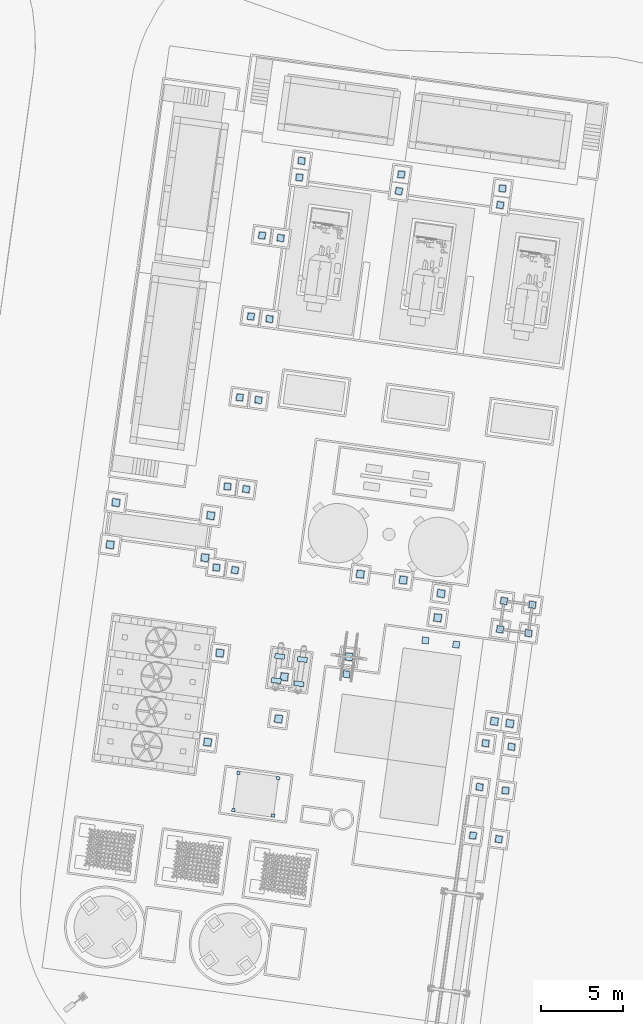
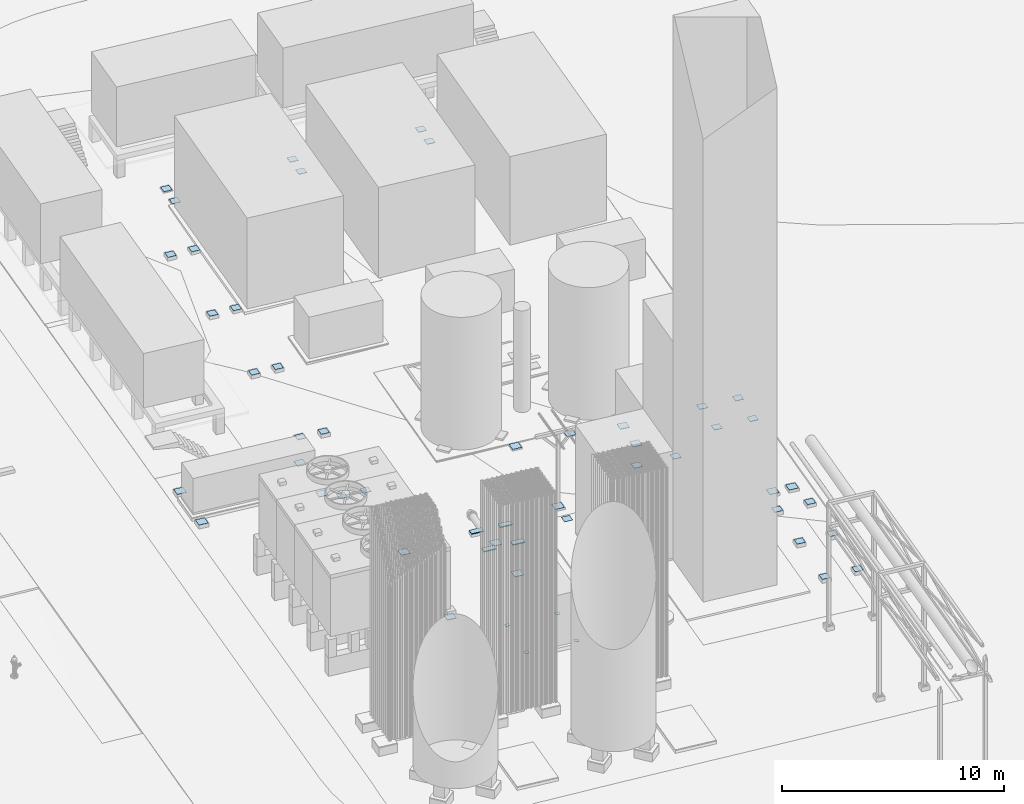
# Not in any storey, part 19 of 75: 48 plates, 4 slabs.
"""IFC4 model written with IfcOpenShell, lengths in metres."""

from ifc_helpers import new_model, si_unit, direction, origin, origin_with_axes, place, context, subcontext, project, spatial, triangles, material, element, save


model = new_model("IFC4")

# Units and contexts
model_context = context("Model", 3, precision=1e-05, world=origin_with_axes(), true_north=direction((0.0, 1.0)))
body_context = subcontext(model_context, "Body", "Model", "MODEL_VIEW")
ifc_project = project(units=[si_unit("AREAUNIT", "SQUARE_METRE"), si_unit("VOLUMEUNIT", "CUBIC_METRE"), si_unit("LENGTHUNIT", "METRE")], contexts=[model_context])

# Site
site_placement = place(None, origin_with_axes())
site = spatial("IfcSite", under=ifc_project, at=site_placement, Name="Parcela industrial Jinhong")

# Plates
plate_1_placement = place(None, origin())
element("IfcPlate", 1, at=plate_1_placement, inside=site, Name="Cimentación de las cajas frías · placa embebida MJ-2 2423", ObjectType="Cimentación industrial", PredefinedType="USERDEFINED", context=body_context, shape_type="Tessellation", body=[
    triangles([(50.94373, 48.196118, 1.184), (51.340003, 48.141637, 1.184), (51.285521, 47.745365, 1.184), (50.889249, 47.799846, 1.184), (50.94373, 48.196118, 1.2), (51.340003, 48.141637, 1.2), (51.285521, 47.745365, 1.2), (50.889249, 47.799846, 1.2)], [[1, 2, 3], [3, 4, 1], [7, 6, 5], [5, 8, 7], [5, 6, 1], [1, 6, 2], [6, 7, 2], [2, 7, 3], [8, 5, 4], [4, 5, 1], [7, 8, 3], [3, 8, 4]], closed=True),
])
plate_2_placement = place(None, origin())
element("IfcPlate", 2, at=plate_2_placement, inside=site, Name="Cimentación de las cajas frías · placa embebida MJ-2 2424", ObjectType="Cimentación industrial", PredefinedType="USERDEFINED", context=body_context, shape_type="Tessellation", body=[
    triangles([(55.770907, 50.267946, 1.184), (56.167179, 50.213464, 1.184), (56.112698, 49.817192, 1.184), (55.716425, 49.871674, 1.184), (55.770907, 50.267946, 1.2), (56.167179, 50.213464, 1.2), (56.112698, 49.817192, 1.2), (55.716425, 49.871674, 1.2)], [[1, 2, 3], [3, 4, 1], [7, 6, 5], [5, 8, 7], [5, 6, 1], [1, 6, 2], [6, 7, 2], [2, 7, 3], [8, 5, 4], [4, 5, 1], [7, 8, 3], [3, 8, 4]], closed=True),
])
plate_3_placement = place(None, origin())
element("IfcPlate", 3, at=plate_3_placement, inside=site, Name="Cimentación de las cajas frías · placa embebida MJ-2 2427", ObjectType="Cimentación industrial", PredefinedType="USERDEFINED", context=body_context, shape_type="Tessellation", body=[
    triangles([(57.6532, 50.009158, 1.184), (58.049473, 49.954677, 1.184), (57.994991, 49.558405, 1.184), (57.598719, 49.612886, 1.184), (57.6532, 50.009158, 1.2), (58.049473, 49.954677, 1.2), (57.994991, 49.558405, 1.2), (57.598719, 49.612886, 1.2)], [[1, 2, 3], [3, 4, 1], [7, 6, 5], [5, 8, 7], [5, 6, 1], [1, 6, 2], [6, 7, 2], [2, 7, 3], [8, 5, 4], [4, 5, 1], [7, 8, 3], [3, 8, 4]], closed=True),
])

# Slabs
ifc_material = material(Name="Mortero HA-35 de alta resistencia sin retracción", Category="Material documentado")
slab_1_placement = place(None, origin())
element("IfcSlab", 4, at=slab_1_placement, inside=site, material=ifc_material, Name="Cimentación del posenfriador WE441-PLAN · mortero DZ6 1", ObjectType="Cimentación industrial", PredefinedType="USERDEFINED", context=body_context, shape_type="Tessellation", body=[
    triangles([(47.348546, 49.175188, 1.25), (47.307685, 48.877984, 1.25), (46.713277, 48.959706, 1.25), (46.754138, 49.25691, 1.25), (47.348546, 49.175188, 1.3), (47.307685, 48.877984, 1.3), (46.713277, 48.959706, 1.3), (46.754138, 49.25691, 1.3)], [[1, 2, 3], [3, 4, 1], [7, 6, 5], [5, 8, 7], [5, 6, 1], [1, 6, 2], [6, 7, 2], [2, 7, 3], [8, 5, 4], [4, 5, 1], [7, 8, 3], [3, 8, 4]], closed=True),
])
slab_2_placement = place(None, origin())
element("IfcSlab", 5, at=slab_2_placement, inside=site, material=ifc_material, Name="Cimentación del posenfriador WE441-PLAN · mortero DZ6 2", ObjectType="Cimentación industrial", PredefinedType="USERDEFINED", context=body_context, shape_type="Tessellation", body=[
    triangles([(47.14424, 47.689167, 1.25), (47.103379, 47.391962, 1.25), (46.508971, 47.473685, 1.25), (46.549832, 47.770889, 1.25), (47.14424, 47.689167, 1.3), (47.103379, 47.391962, 1.3), (46.508971, 47.473685, 1.3), (46.549832, 47.770889, 1.3)], [[1, 2, 3], [3, 4, 1], [7, 6, 5], [5, 8, 7], [5, 6, 1], [1, 6, 2], [6, 7, 2], [2, 7, 3], [8, 5, 4], [4, 5, 1], [7, 8, 3], [3, 8, 4]], closed=True),
])
slab_3_placement = place(None, origin())
element("IfcSlab", 6, at=slab_3_placement, inside=site, material=ifc_material, Name="Cimentación del posenfriador WE442-PLAN · mortero DZ6 1", ObjectType="Cimentación industrial", PredefinedType="USERDEFINED", context=body_context, shape_type="Tessellation", body=[
    triangles([(48.7355, 48.984502, 1.25), (48.694638, 48.687298, 1.25), (48.10023, 48.76902, 1.25), (48.141091, 49.066225, 1.25), (48.7355, 48.984502, 1.3), (48.694638, 48.687298, 1.3), (48.10023, 48.76902, 1.3), (48.141091, 49.066225, 1.3)], [[1, 2, 3], [3, 4, 1], [7, 6, 5], [5, 8, 7], [5, 6, 1], [1, 6, 2], [6, 7, 2], [2, 7, 3], [8, 5, 4], [4, 5, 1], [7, 8, 3], [3, 8, 4]], closed=True),
])
slab_4_placement = place(None, origin())
element("IfcSlab", 7, at=slab_4_placement, inside=site, material=ifc_material, Name="Cimentación del posenfriador WE442-PLAN · mortero DZ6 2", ObjectType="Cimentación industrial", PredefinedType="USERDEFINED", context=body_context, shape_type="Tessellation", body=[
    triangles([(48.531194, 47.498481, 1.25), (48.490332, 47.201277, 1.25), (47.895924, 47.282999, 1.25), (47.936785, 47.580203, 1.25), (48.531194, 47.498481, 1.3), (48.490332, 47.201277, 1.3), (47.895924, 47.282999, 1.3), (47.936785, 47.580203, 1.3)], [[1, 2, 3], [3, 4, 1], [7, 6, 5], [5, 8, 7], [5, 6, 1], [1, 6, 2], [6, 7, 2], [2, 7, 3], [8, 5, 4], [4, 5, 1], [7, 8, 3], [3, 8, 4]], closed=True),
])

# Plates
plate_4_placement = place(None, origin())
element("IfcPlate", 8, at=plate_4_placement, inside=site, Name="Base de la caseta de analizadores · placa embebida MJ3 26DA", ObjectType="Cimentación industrial", PredefinedType="USERDEFINED", context=body_context, shape_type="Tessellation", body=[
    triangles([(44.624866, 42.029301, 1.286), (44.597625, 41.831165, 1.286), (44.399489, 41.858406, 1.286), (44.42673, 42.056542, 1.286), (44.624866, 42.029301, 1.3), (44.597625, 41.831165, 1.3), (44.399489, 41.858406, 1.3), (44.42673, 42.056542, 1.3)], [[1, 2, 3], [3, 4, 1], [7, 6, 5], [5, 8, 7], [5, 6, 1], [1, 6, 2], [6, 7, 2], [2, 7, 3], [8, 5, 4], [4, 5, 1], [7, 8, 3], [3, 8, 4]], closed=True),
])
plate_5_placement = place(None, origin())
element("IfcPlate", 9, at=plate_5_placement, inside=site, Name="Base de la caseta de analizadores · placa embebida MJ3 26DB", ObjectType="Cimentación industrial", PredefinedType="USERDEFINED", context=body_context, shape_type="Tessellation", body=[
    triangles([(44.311597, 39.750735, 1.286), (44.284356, 39.552599, 1.286), (44.08622, 39.57984, 1.286), (44.113461, 39.777976, 1.286), (44.311597, 39.750735, 1.3), (44.284356, 39.552599, 1.3), (44.08622, 39.57984, 1.3), (44.113461, 39.777976, 1.3)], [[1, 2, 3], [3, 4, 1], [7, 6, 5], [5, 8, 7], [5, 6, 1], [1, 6, 2], [6, 7, 2], [2, 7, 3], [8, 5, 4], [4, 5, 1], [7, 8, 3], [3, 8, 4]], closed=True),
])
plate_6_placement = place(None, origin())
element("IfcPlate", 10, at=plate_6_placement, inside=site, Name="Base de la caseta de analizadores · placa embebida MJ3 26DC", ObjectType="Cimentación industrial", PredefinedType="USERDEFINED", context=body_context, shape_type="Tessellation", body=[
    triangles([(47.052034, 41.695601, 1.286), (47.024793, 41.497465, 1.286), (46.826657, 41.524706, 1.286), (46.853898, 41.722842, 1.286), (47.052034, 41.695601, 1.3), (47.024793, 41.497465, 1.3), (46.826657, 41.524706, 1.3), (46.853898, 41.722842, 1.3)], [[1, 2, 3], [3, 4, 1], [7, 6, 5], [5, 8, 7], [5, 6, 1], [1, 6, 2], [6, 7, 2], [2, 7, 3], [8, 5, 4], [4, 5, 1], [7, 8, 3], [3, 8, 4]], closed=True),
])
plate_7_placement = place(None, origin())
element("IfcPlate", 11, at=plate_7_placement, inside=site, Name="Base de la caseta de analizadores · placa embebida MJ3 26DD", ObjectType="Cimentación industrial", PredefinedType="USERDEFINED", context=body_context, shape_type="Tessellation", body=[
    triangles([(46.738765, 39.417035, 1.286), (46.711524, 39.218899, 1.286), (46.513388, 39.24614, 1.286), (46.540629, 39.444276, 1.286), (46.738765, 39.417035, 1.3), (46.711524, 39.218899, 1.3), (46.513388, 39.24614, 1.3), (46.540629, 39.444276, 1.3)], [[1, 2, 3], [3, 4, 1], [7, 6, 5], [5, 8, 7], [5, 6, 1], [1, 6, 2], [6, 7, 2], [2, 7, 3], [8, 5, 4], [4, 5, 1], [7, 8, 3], [3, 8, 4]], closed=True),
])
plate_8_placement = place(None, origin())
element("IfcPlate", 12, at=plate_8_placement, inside=site, Name="Cimentación de soporte de tuberías C01 · placa embebida MJ-1", ObjectType="Cimentación industrial", PredefinedType="USERDEFINED", context=body_context, shape_type="Tessellation", body=[
    triangles([(48.14495, 79.196217, 1.28), (48.199432, 79.592489, 1.28), (48.595704, 79.538008, 1.28), (48.541223, 79.141735, 1.28), (48.14495, 79.196217, 1.3), (48.199432, 79.592489, 1.3), (48.595704, 79.538008, 1.3), (48.541223, 79.141735, 1.3)], [[1, 2, 3], [3, 4, 1], [7, 6, 5], [5, 8, 7], [5, 6, 1], [1, 6, 2], [6, 7, 2], [2, 7, 3], [8, 5, 4], [4, 5, 1], [7, 8, 3], [3, 8, 4]], closed=True),
])
plate_9_placement = place(None, origin())
element("IfcPlate", 13, at=plate_9_placement, inside=site, Name="Cimentación de soporte de tuberías C02 · placa embebida MJ-1", ObjectType="Cimentación industrial", PredefinedType="USERDEFINED", context=body_context, shape_type="Tessellation", body=[
    triangles([(48.005341, 78.180769, 1.28), (48.059823, 78.577041, 1.28), (48.456095, 78.52256, 1.28), (48.401614, 78.126287, 1.28), (48.005341, 78.180769, 1.3), (48.059823, 78.577041, 1.3), (48.456095, 78.52256, 1.3), (48.401614, 78.126287, 1.3)], [[1, 2, 3], [3, 4, 1], [7, 6, 5], [5, 8, 7], [5, 6, 1], [1, 6, 2], [6, 7, 2], [2, 7, 3], [8, 5, 4], [4, 5, 1], [7, 8, 3], [3, 8, 4]], closed=True),
])
plate_10_placement = place(None, origin())
element("IfcPlate", 14, at=plate_10_placement, inside=site, Name="Cimentación de soporte de tuberías C03 · placa embebida MJ-1", ObjectType="Cimentación industrial", PredefinedType="USERDEFINED", context=body_context, shape_type="Tessellation", body=[
    triangles([(54.237637, 78.358563, 1.28), (54.292119, 78.754835, 1.28), (54.688391, 78.700353, 1.28), (54.63391, 78.304081, 1.28), (54.237637, 78.358563, 1.3), (54.292119, 78.754835, 1.3), (54.688391, 78.700353, 1.3), (54.63391, 78.304081, 1.3)], [[1, 2, 3], [3, 4, 1], [7, 6, 5], [5, 8, 7], [5, 6, 1], [1, 6, 2], [6, 7, 2], [2, 7, 3], [8, 5, 4], [4, 5, 1], [7, 8, 3], [3, 8, 4]], closed=True),
])
plate_11_placement = place(None, origin())
element("IfcPlate", 15, at=plate_11_placement, inside=site, Name="Cimentación de soporte de tuberías C04 · placa embebida MJ-1", ObjectType="Cimentación industrial", PredefinedType="USERDEFINED", context=body_context, shape_type="Tessellation", body=[
    triangles([(54.098028, 77.343115, 1.28), (54.15251, 77.739387, 1.28), (54.548782, 77.684906, 1.28), (54.494301, 77.288633, 1.28), (54.098028, 77.343115, 1.3), (54.15251, 77.739387, 1.3), (54.548782, 77.684906, 1.3), (54.494301, 77.288633, 1.3)], [[1, 2, 3], [3, 4, 1], [7, 6, 5], [5, 8, 7], [5, 6, 1], [1, 6, 2], [6, 7, 2], [2, 7, 3], [8, 5, 4], [4, 5, 1], [7, 8, 3], [3, 8, 4]], closed=True),
])
plate_12_placement = place(None, origin())
element("IfcPlate", 16, at=plate_12_placement, inside=site, Name="Cimentación de soporte de tuberías C05 · placa embebida MJ-1", ObjectType="Cimentación industrial", PredefinedType="USERDEFINED", context=body_context, shape_type="Tessellation", body=[
    triangles([(60.429392, 77.507288, 1.28), (60.483874, 77.90356, 1.28), (60.880146, 77.849079, 1.28), (60.825665, 77.452807, 1.28), (60.429392, 77.507288, 1.3), (60.483874, 77.90356, 1.3), (60.880146, 77.849079, 1.3), (60.825665, 77.452807, 1.3)], [[1, 2, 3], [3, 4, 1], [7, 6, 5], [5, 8, 7], [5, 6, 1], [1, 6, 2], [6, 7, 2], [2, 7, 3], [8, 5, 4], [4, 5, 1], [7, 8, 3], [3, 8, 4]], closed=True),
])
plate_13_placement = place(None, origin())
element("IfcPlate", 17, at=plate_13_placement, inside=site, Name="Cimentación de soporte de tuberías C06 · placa embebida MJ-1", ObjectType="Cimentación industrial", PredefinedType="USERDEFINED", context=body_context, shape_type="Tessellation", body=[
    triangles([(60.289783, 76.49184, 1.28), (60.344265, 76.888113, 1.28), (60.740537, 76.833631, 1.28), (60.686056, 76.437359, 1.28), (60.289783, 76.49184, 1.3), (60.344265, 76.888113, 1.3), (60.740537, 76.833631, 1.3), (60.686056, 76.437359, 1.3)], [[1, 2, 3], [3, 4, 1], [7, 6, 5], [5, 8, 7], [5, 6, 1], [1, 6, 2], [6, 7, 2], [2, 7, 3], [8, 5, 4], [4, 5, 1], [7, 8, 3], [3, 8, 4]], closed=True),
])
plate_14_placement = place(None, origin())
element("IfcPlate", 18, at=plate_14_placement, inside=site, Name="Cimentación de soporte de tuberías C07 · placa embebida MJ-1", ObjectType="Cimentación industrial", PredefinedType="USERDEFINED", context=body_context, shape_type="Tessellation", body=[
    triangles([(46.176657, 74.974968, 1.28), (45.725903, 74.633177, 1.28), (45.780384, 75.029449, 1.28), (46.122175, 74.578695, 1.28), (46.176657, 74.974968, 1.3), (45.725903, 74.633177, 1.3), (45.780384, 75.029449, 1.3), (46.122175, 74.578695, 1.3)], [[1, 2, 3], [2, 1, 4], [7, 6, 5], [8, 5, 6], [7, 5, 3], [3, 5, 1], [6, 7, 2], [2, 7, 3], [5, 8, 1], [1, 8, 4], [8, 6, 4], [4, 6, 2]], closed=True),
])
plate_15_placement = place(None, origin())
element("IfcPlate", 19, at=plate_15_placement, inside=site, Name="Cimentación de soporte de tuberías C08 · placa embebida MJ-1", ObjectType="Cimentación industrial", PredefinedType="USERDEFINED", context=body_context, shape_type="Tessellation", body=[
    triangles([(46.865186, 74.476542, 1.28), (46.919667, 74.872815, 1.28), (47.31594, 74.818333, 1.28), (47.261458, 74.422061, 1.28), (46.865186, 74.476542, 1.3), (46.919667, 74.872815, 1.3), (47.31594, 74.818333, 1.3), (47.261458, 74.422061, 1.3)], [[1, 2, 3], [3, 4, 1], [7, 6, 5], [5, 8, 7], [5, 6, 1], [1, 6, 2], [6, 7, 2], [2, 7, 3], [8, 5, 4], [4, 5, 1], [7, 8, 3], [3, 8, 4]], closed=True),
])
plate_16_placement = place(None, origin())
element("IfcPlate", 20, at=plate_16_placement, inside=site, Name="Cimentación de soporte de tuberías C09 · placa embebida MJ-1", ObjectType="Cimentación industrial", PredefinedType="USERDEFINED", context=body_context, shape_type="Tessellation", body=[
    triangles([(45.495637, 70.021563, 1.28), (45.044883, 69.679773, 1.28), (45.099365, 70.076045, 1.28), (45.441155, 69.625291, 1.28), (45.495637, 70.021563, 1.3), (45.044883, 69.679773, 1.3), (45.099365, 70.076045, 1.3), (45.441155, 69.625291, 1.3)], [[1, 2, 3], [2, 1, 4], [7, 6, 5], [8, 5, 6], [7, 5, 3], [3, 5, 1], [6, 7, 2], [2, 7, 3], [5, 8, 1], [1, 8, 4], [8, 6, 4], [4, 6, 2]], closed=True),
])
plate_17_placement = place(None, origin())
element("IfcPlate", 21, at=plate_17_placement, inside=site, Name="Cimentación de soporte de tuberías C10 · placa embebida MJ-1", ObjectType="Cimentación industrial", PredefinedType="USERDEFINED", context=body_context, shape_type="Tessellation", body=[
    triangles([(46.184166, 69.523138, 1.28), (46.238648, 69.91941, 1.28), (46.63492, 69.864929, 1.28), (46.580438, 69.468657, 1.28), (46.184166, 69.523138, 1.3), (46.238648, 69.91941, 1.3), (46.63492, 69.864929, 1.3), (46.580438, 69.468657, 1.3)], [[1, 2, 3], [3, 4, 1], [7, 6, 5], [5, 8, 7], [5, 6, 1], [1, 6, 2], [6, 7, 2], [2, 7, 3], [8, 5, 4], [4, 5, 1], [7, 8, 3], [3, 8, 4]], closed=True),
])
plate_18_placement = place(None, origin())
element("IfcPlate", 22, at=plate_18_placement, inside=site, Name="Cimentación de soporte de tuberías C11 · placa embebida MJ-1", ObjectType="Cimentación industrial", PredefinedType="USERDEFINED", context=body_context, shape_type="Tessellation", body=[
    triangles([(44.814617, 65.068159, 1.28), (44.363863, 64.726369, 1.28), (44.418345, 65.122641, 1.28), (44.760136, 64.671887, 1.28), (44.814617, 65.068159, 1.3), (44.363863, 64.726369, 1.3), (44.418345, 65.122641, 1.3), (44.760136, 64.671887, 1.3)], [[1, 2, 3], [2, 1, 4], [7, 6, 5], [8, 5, 6], [7, 5, 3], [3, 5, 1], [6, 7, 2], [2, 7, 3], [5, 8, 1], [1, 8, 4], [8, 6, 4], [4, 6, 2]], closed=True),
])
plate_19_placement = place(None, origin())
element("IfcPlate", 23, at=plate_19_placement, inside=site, Name="Cimentación de soporte de tuberías C12 · placa embebida MJ-1", ObjectType="Cimentación industrial", PredefinedType="USERDEFINED", context=body_context, shape_type="Tessellation", body=[
    triangles([(45.503146, 64.569734, 1.28), (45.557628, 64.966006, 1.28), (45.9539, 64.911525, 1.28), (45.899419, 64.515252, 1.28), (45.503146, 64.569734, 1.3), (45.557628, 64.966006, 1.3), (45.9539, 64.911525, 1.3), (45.899419, 64.515252, 1.3)], [[1, 2, 3], [3, 4, 1], [7, 6, 5], [5, 8, 7], [5, 6, 1], [1, 6, 2], [6, 7, 2], [2, 7, 3], [8, 5, 4], [4, 5, 1], [7, 8, 3], [3, 8, 4]], closed=True),
])
plate_20_placement = place(None, origin())
element("IfcPlate", 24, at=plate_20_placement, inside=site, Name="Cimentación de soporte de tuberías C13 · placa embebida MJ-1", ObjectType="Cimentación industrial", PredefinedType="USERDEFINED", context=body_context, shape_type="Tessellation", body=[
    triangles([(44.065496, 59.619415, 1.28), (43.614742, 59.277624, 1.28), (43.669223, 59.673896, 1.28), (44.011014, 59.223142, 1.28), (44.065496, 59.619415, 1.3), (43.614742, 59.277624, 1.3), (43.669223, 59.673896, 1.3), (44.011014, 59.223142, 1.3)], [[1, 2, 3], [2, 1, 4], [7, 6, 5], [8, 5, 6], [7, 5, 3], [3, 5, 1], [6, 7, 2], [2, 7, 3], [5, 8, 1], [1, 8, 4], [8, 6, 4], [4, 6, 2]], closed=True),
])
plate_21_placement = place(None, origin())
element("IfcPlate", 25, at=plate_21_placement, inside=site, Name="Cimentación de soporte de tuberías C14 · placa embebida MJ-1", ObjectType="Cimentación industrial", PredefinedType="USERDEFINED", context=body_context, shape_type="Tessellation", body=[
    triangles([(44.754025, 59.12099, 1.28), (44.808506, 59.517262, 1.28), (45.204779, 59.46278, 1.28), (45.150297, 59.066508, 1.28), (44.754025, 59.12099, 1.3), (44.808506, 59.517262, 1.3), (45.204779, 59.46278, 1.3), (45.150297, 59.066508, 1.3)], [[1, 2, 3], [3, 4, 1], [7, 6, 5], [5, 8, 7], [5, 6, 1], [1, 6, 2], [6, 7, 2], [2, 7, 3], [8, 5, 4], [4, 5, 1], [7, 8, 3], [3, 8, 4]], closed=True),
])
plate_22_placement = place(None, origin())
element("IfcPlate", 26, at=plate_22_placement, inside=site, Name="Cimentación de marquesina C15 · placa embebida M1", ObjectType="Cimentación industrial", PredefinedType="USERDEFINED", context=body_context, shape_type="Tessellation", body=[
    triangles([(36.764522, 58.27632, 1.28), (36.825814, 58.722126, 1.28), (37.27162, 58.660834, 1.28), (37.210328, 58.215028, 1.28), (36.764522, 58.27632, 1.3), (36.825814, 58.722126, 1.3), (37.27162, 58.660834, 1.3), (37.210328, 58.215028, 1.3)], [[1, 2, 3], [3, 4, 1], [7, 6, 5], [5, 8, 7], [5, 6, 1], [1, 6, 2], [6, 7, 2], [2, 7, 3], [8, 5, 4], [4, 5, 1], [7, 8, 3], [3, 8, 4]], closed=True),
])
plate_23_placement = place(None, origin())
element("IfcPlate", 27, at=plate_23_placement, inside=site, Name="Cimentación de marquesina C16 · placa embebida M1", ObjectType="Cimentación industrial", PredefinedType="USERDEFINED", context=body_context, shape_type="Tessellation", body=[
    triangles([(36.410392, 55.700549, 1.28), (36.471683, 56.146356, 1.28), (36.91749, 56.085064, 1.28), (36.856198, 55.639258, 1.28), (36.410392, 55.700549, 1.3), (36.471683, 56.146356, 1.3), (36.91749, 56.085064, 1.3), (36.856198, 55.639258, 1.3)], [[1, 2, 3], [3, 4, 1], [7, 6, 5], [5, 8, 7], [5, 6, 1], [1, 6, 2], [6, 7, 2], [2, 7, 3], [8, 5, 4], [4, 5, 1], [7, 8, 3], [3, 8, 4]], closed=True),
])
plate_24_placement = place(None, origin())
element("IfcPlate", 28, at=plate_24_placement, inside=site, Name="Cimentación de marquesina C17 · placa embebida M1", ObjectType="Cimentación industrial", PredefinedType="USERDEFINED", context=body_context, shape_type="Tessellation", body=[
    triangles([(42.560005, 57.479527, 1.28), (42.621296, 57.925333, 1.28), (43.067103, 57.864041, 1.28), (43.005811, 57.418235, 1.28), (42.560005, 57.479527, 1.3), (42.621296, 57.925333, 1.3), (43.067103, 57.864041, 1.3), (43.005811, 57.418235, 1.3)], [[1, 2, 3], [3, 4, 1], [7, 6, 5], [5, 8, 7], [5, 6, 1], [1, 6, 2], [6, 7, 2], [2, 7, 3], [8, 5, 4], [4, 5, 1], [7, 8, 3], [3, 8, 4]], closed=True),
])
plate_25_placement = place(None, origin())
element("IfcPlate", 29, at=plate_25_placement, inside=site, Name="Cimentación de marquesina C18 · placa embebida M1", ObjectType="Cimentación industrial", PredefinedType="USERDEFINED", context=body_context, shape_type="Tessellation", body=[
    triangles([(42.205874, 54.903756, 1.28), (42.267166, 55.349563, 1.28), (42.712973, 55.288271, 1.28), (42.651681, 54.842465, 1.28), (42.205874, 54.903756, 1.3), (42.267166, 55.349563, 1.3), (42.712973, 55.288271, 1.3), (42.651681, 54.842465, 1.3)], [[1, 2, 3], [3, 4, 1], [7, 6, 5], [5, 8, 7], [5, 6, 1], [1, 6, 2], [6, 7, 2], [2, 7, 3], [8, 5, 4], [4, 5, 1], [7, 8, 3], [3, 8, 4]], closed=True),
])
plate_26_placement = place(None, origin())
element("IfcPlate", 30, at=plate_26_placement, inside=site, Name="Cimentación de soporte de tuberías C19 · placa embebida MJ-1", ObjectType="Cimentación industrial", PredefinedType="USERDEFINED", context=body_context, shape_type="Tessellation", body=[
    triangles([(43.384476, 54.666011, 1.28), (42.933722, 54.32422, 1.28), (42.988204, 54.720492, 1.28), (43.329995, 54.269738, 1.28), (43.384476, 54.666011, 1.3), (42.933722, 54.32422, 1.3), (42.988204, 54.720492, 1.3), (43.329995, 54.269738, 1.3)], [[1, 2, 3], [2, 1, 4], [7, 6, 5], [8, 5, 6], [7, 5, 3], [3, 5, 1], [6, 7, 2], [2, 7, 3], [5, 8, 1], [1, 8, 4], [8, 6, 4], [4, 6, 2]], closed=True),
])
plate_27_placement = place(None, origin())
element("IfcPlate", 31, at=plate_27_placement, inside=site, Name="Cimentación de soporte de tuberías C20 · placa embebida MJ-1", ObjectType="Cimentación industrial", PredefinedType="USERDEFINED", context=body_context, shape_type="Tessellation", body=[
    triangles([(44.073005, 54.167585, 1.28), (44.127487, 54.563858, 1.28), (44.523759, 54.509376, 1.28), (44.469278, 54.113104, 1.28), (44.073005, 54.167585, 1.3), (44.127487, 54.563858, 1.3), (44.523759, 54.509376, 1.3), (44.469278, 54.113104, 1.3)], [[1, 2, 3], [3, 4, 1], [7, 6, 5], [5, 8, 7], [5, 6, 1], [1, 6, 2], [6, 7, 2], [2, 7, 3], [8, 5, 4], [4, 5, 1], [7, 8, 3], [3, 8, 4]], closed=True),
])
plate_28_placement = place(None, origin())
element("IfcPlate", 32, at=plate_28_placement, inside=site, Name="Cimentación de soporte de tuberías C21 · placa embebida MJ-2", ObjectType="Cimentación industrial", PredefinedType="USERDEFINED", context=body_context, shape_type="Tessellation", body=[
    triangles([(51.707737, 53.900213, 1.18), (51.769029, 54.34602, 1.18), (52.214836, 54.284728, 1.18), (52.153544, 53.838921, 1.18), (51.707737, 53.900213, 1.2), (51.769029, 54.34602, 1.2), (52.214836, 54.284728, 1.2), (52.153544, 53.838921, 1.2)], [[1, 2, 3], [3, 4, 1], [7, 6, 5], [5, 8, 7], [5, 6, 1], [1, 6, 2], [6, 7, 2], [2, 7, 3], [8, 5, 4], [4, 5, 1], [7, 8, 3], [3, 8, 4]], closed=True),
])
plate_29_placement = place(None, origin())
element("IfcPlate", 33, at=plate_29_placement, inside=site, Name="Cimentación de soporte de tuberías C22 · placa embebida MJ-2", ObjectType="Cimentación industrial", PredefinedType="USERDEFINED", context=body_context, shape_type="Tessellation", body=[
    triangles([(54.333042, 53.539273, 1.18), (54.394333, 53.985079, 1.18), (54.84014, 53.923787, 1.18), (54.778848, 53.477981, 1.18), (54.333042, 53.539273, 1.2), (54.394333, 53.985079, 1.2), (54.84014, 53.923787, 1.2), (54.778848, 53.477981, 1.2)], [[1, 2, 3], [3, 4, 1], [7, 6, 5], [5, 8, 7], [5, 6, 1], [1, 6, 2], [6, 7, 2], [2, 7, 3], [8, 5, 4], [4, 5, 1], [7, 8, 3], [3, 8, 4]], closed=True),
])
plate_30_placement = place(None, origin())
element("IfcPlate", 34, at=plate_30_placement, inside=site, Name="Cimentación de soporte de tuberías C23 · placa embebida MJ-2", ObjectType="Cimentación industrial", PredefinedType="USERDEFINED", context=body_context, shape_type="Tessellation", body=[
    triangles([(56.642574, 52.717043, 1.28), (56.703865, 53.162849, 1.28), (57.149672, 53.101558, 1.28), (57.08838, 52.655751, 1.28), (56.642574, 52.717043, 1.3), (56.703865, 53.162849, 1.3), (57.149672, 53.101558, 1.3), (57.08838, 52.655751, 1.3)], [[1, 2, 3], [3, 4, 1], [7, 6, 5], [5, 8, 7], [5, 6, 1], [1, 6, 2], [6, 7, 2], [2, 7, 3], [8, 5, 4], [4, 5, 1], [7, 8, 3], [3, 8, 4]], closed=True),
])
plate_31_placement = place(None, origin())
element("IfcPlate", 35, at=plate_31_placement, inside=site, Name="Cimentación de soporte de tuberías C24 · placa embebida MJ-2", ObjectType="Cimentación industrial", PredefinedType="USERDEFINED", context=body_context, shape_type="Tessellation", body=[
    triangles([(56.438268, 51.231022, 1.28), (56.49956, 51.676828, 1.28), (56.945366, 51.615536, 1.28), (56.884074, 51.16973, 1.28), (56.438268, 51.231022, 1.3), (56.49956, 51.676828, 1.3), (56.945366, 51.615536, 1.3), (56.884074, 51.16973, 1.3)], [[1, 2, 3], [3, 4, 1], [7, 6, 5], [5, 8, 7], [5, 6, 1], [1, 6, 2], [6, 7, 2], [2, 7, 3], [8, 5, 4], [4, 5, 1], [7, 8, 3], [3, 8, 4]], closed=True),
])
plate_32_placement = place(None, origin())
element("IfcPlate", 36, at=plate_32_placement, inside=site, Name="Cimentación de soporte de tuberías C25 · placa embebida MJ-1", ObjectType="Cimentación industrial", PredefinedType="USERDEFINED", context=body_context, shape_type="Tessellation", body=[
    triangles([(60.519849, 52.284916, 1.28), (60.574331, 52.681188, 1.28), (60.970603, 52.626707, 1.28), (60.916122, 52.230434, 1.28), (60.519849, 52.284916, 1.3), (60.574331, 52.681188, 1.3), (60.970603, 52.626707, 1.3), (60.916122, 52.230434, 1.3)], [[1, 2, 3], [3, 4, 1], [7, 6, 5], [5, 8, 7], [5, 6, 1], [1, 6, 2], [6, 7, 2], [2, 7, 3], [8, 5, 4], [4, 5, 1], [7, 8, 3], [3, 8, 4]], closed=True),
])
plate_33_placement = place(None, origin())
element("IfcPlate", 37, at=plate_33_placement, inside=site, Name="Cimentación de soporte de tuberías C26 · placa embebida MJ-1", ObjectType="Cimentación industrial", PredefinedType="USERDEFINED", context=body_context, shape_type="Tessellation", body=[
    triangles([(62.253541, 52.046559, 1.28), (62.308022, 52.442831, 1.28), (62.704295, 52.38835, 1.28), (62.649813, 51.992077, 1.28), (62.253541, 52.046559, 1.3), (62.308022, 52.442831, 1.3), (62.704295, 52.38835, 1.3), (62.649813, 51.992077, 1.3)], [[1, 2, 3], [3, 4, 1], [7, 6, 5], [5, 8, 7], [5, 6, 1], [1, 6, 2], [6, 7, 2], [2, 7, 3], [8, 5, 4], [4, 5, 1], [7, 8, 3], [3, 8, 4]], closed=True),
])
plate_34_placement = place(None, origin())
element("IfcPlate", 38, at=plate_34_placement, inside=site, Name="Cimentación de soporte de tuberías C27 · placa embebida MJ-1", ObjectType="Cimentación industrial", PredefinedType="USERDEFINED", context=body_context, shape_type="Tessellation", body=[
    triangles([(60.281492, 50.551224, 1.28), (60.335974, 50.947497, 1.28), (60.732246, 50.893015, 1.28), (60.677765, 50.496743, 1.28), (60.281492, 50.551224, 1.3), (60.335974, 50.947497, 1.3), (60.732246, 50.893015, 1.3), (60.677765, 50.496743, 1.3)], [[1, 2, 3], [3, 4, 1], [7, 6, 5], [5, 8, 7], [5, 6, 1], [1, 6, 2], [6, 7, 2], [2, 7, 3], [8, 5, 4], [4, 5, 1], [7, 8, 3], [3, 8, 4]], closed=True),
])
plate_35_placement = place(None, origin())
element("IfcPlate", 39, at=plate_35_placement, inside=site, Name="Cimentación de soporte de tuberías C28 · placa embebida MJ-1", ObjectType="Cimentación industrial", PredefinedType="USERDEFINED", context=body_context, shape_type="Tessellation", body=[
    triangles([(62.015184, 50.312867, 1.28), (62.069665, 50.70914, 1.28), (62.465938, 50.654658, 1.28), (62.411456, 50.258386, 1.28), (62.015184, 50.312867, 1.3), (62.069665, 50.70914, 1.3), (62.465938, 50.654658, 1.3), (62.411456, 50.258386, 1.3)], [[1, 2, 3], [3, 4, 1], [7, 6, 5], [5, 8, 7], [5, 6, 1], [1, 6, 2], [6, 7, 2], [2, 7, 3], [8, 5, 4], [4, 5, 1], [7, 8, 3], [3, 8, 4]], closed=True),
])
plate_36_placement = place(None, origin())
element("IfcPlate", 40, at=plate_36_placement, inside=site, Name="Cimentación de soporte de tuberías C29 · placa embebida MJ-2", ObjectType="Cimentación industrial", PredefinedType="USERDEFINED", context=body_context, shape_type="Tessellation", body=[
    triangles([(43.12048, 49.074863, 1.28), (43.181771, 49.52067, 1.28), (43.627578, 49.459378, 1.28), (43.566286, 49.013571, 1.28), (43.12048, 49.074863, 1.3), (43.181771, 49.52067, 1.3), (43.627578, 49.459378, 1.3), (43.566286, 49.013571, 1.3)], [[1, 2, 3], [3, 4, 1], [7, 6, 5], [5, 8, 7], [5, 6, 1], [1, 6, 2], [6, 7, 2], [2, 7, 3], [8, 5, 4], [4, 5, 1], [7, 8, 3], [3, 8, 4]], closed=True),
])
plate_37_placement = place(None, origin())
element("IfcPlate", 41, at=plate_37_placement, inside=site, Name="Cimentación de soporte de tuberías C30 · placa embebida MJ-2", ObjectType="Cimentación industrial", PredefinedType="USERDEFINED", context=body_context, shape_type="Tessellation", body=[
    triangles([(42.371358, 43.626119, 1.28), (42.43265, 44.071925, 1.28), (42.878456, 44.010633, 1.28), (42.817164, 43.564827, 1.28), (42.371358, 43.626119, 1.3), (42.43265, 44.071925, 1.3), (42.878456, 44.010633, 1.3), (42.817164, 43.564827, 1.3)], [[1, 2, 3], [3, 4, 1], [7, 6, 5], [5, 8, 7], [5, 6, 1], [1, 6, 2], [6, 7, 2], [2, 7, 3], [8, 5, 4], [4, 5, 1], [7, 8, 3], [3, 8, 4]], closed=True),
])
plate_38_placement = place(None, origin())
element("IfcPlate", 42, at=plate_38_placement, inside=site, Name="Cimentación de soporte de tuberías C31 · placa embebida MJ-2", ObjectType="Cimentación industrial", PredefinedType="USERDEFINED", context=body_context, shape_type="Tessellation", body=[
    triangles([(47.059687, 47.624814, 1.28), (47.120979, 48.070621, 1.28), (47.566786, 48.009329, 1.28), (47.505494, 47.563523, 1.28), (47.059687, 47.624814, 1.3), (47.120979, 48.070621, 1.3), (47.566786, 48.009329, 1.3), (47.505494, 47.563523, 1.3)], [[1, 2, 3], [3, 4, 1], [7, 6, 5], [5, 8, 7], [5, 6, 1], [1, 6, 2], [6, 7, 2], [2, 7, 3], [8, 5, 4], [4, 5, 1], [7, 8, 3], [3, 8, 4]], closed=True),
])
plate_39_placement = place(None, origin())
element("IfcPlate", 43, at=plate_39_placement, inside=site, Name="Cimentación de soporte de tuberías C32 · placa embebida MJ-2", ObjectType="Cimentación industrial", PredefinedType="USERDEFINED", context=body_context, shape_type="Tessellation", body=[
    triangles([(46.705557, 45.049044, 1.28), (46.766849, 45.494851, 1.28), (47.212655, 45.433559, 1.28), (47.151364, 44.987752, 1.28), (46.705557, 45.049044, 1.3), (46.766849, 45.494851, 1.3), (47.212655, 45.433559, 1.3), (47.151364, 44.987752, 1.3)], [[1, 2, 3], [3, 4, 1], [7, 6, 5], [5, 8, 7], [5, 6, 1], [1, 6, 2], [6, 7, 2], [2, 7, 3], [8, 5, 4], [4, 5, 1], [7, 8, 3], [3, 8, 4]], closed=True),
])
plate_40_placement = place(None, origin())
element("IfcPlate", 44, at=plate_40_placement, inside=site, Name="Cimentación de soporte de tuberías C33 · placa embebida MJ-2", ObjectType="Cimentación industrial", PredefinedType="USERDEFINED", context=body_context, shape_type="Tessellation", body=[
    triangles([(51.013097, 48.847741, 1.18), (51.074389, 49.293547, 1.18), (51.520196, 49.232256, 1.18), (51.458904, 48.786449, 1.18), (51.013097, 48.847741, 1.2), (51.074389, 49.293547, 1.2), (51.520196, 49.232256, 1.2), (51.458904, 48.786449, 1.2)], [[1, 2, 3], [3, 4, 1], [7, 6, 5], [5, 8, 7], [5, 6, 1], [1, 6, 2], [6, 7, 2], [2, 7, 3], [8, 5, 4], [4, 5, 1], [7, 8, 3], [3, 8, 4]], closed=True),
])
plate_41_placement = place(None, origin())
element("IfcPlate", 45, at=plate_41_placement, inside=site, Name="Cimentación de soporte de tuberías C34 · placa embebida MJ-2", ObjectType="Cimentación industrial", PredefinedType="USERDEFINED", context=body_context, shape_type="Tessellation", body=[
    triangles([(59.908213, 44.899396, 1.28), (59.969504, 45.345202, 1.28), (60.415311, 45.283911, 1.28), (60.354019, 44.838104, 1.28), (59.908213, 44.899396, 1.3), (59.969504, 45.345202, 1.3), (60.415311, 45.283911, 1.3), (60.354019, 44.838104, 1.3)], [[1, 2, 3], [3, 4, 1], [7, 6, 5], [5, 8, 7], [5, 6, 1], [1, 6, 2], [6, 7, 2], [2, 7, 3], [8, 5, 4], [4, 5, 1], [7, 8, 3], [3, 8, 4]], closed=True),
])
plate_42_placement = place(None, origin())
element("IfcPlate", 46, at=plate_42_placement, inside=site, Name="Cimentación de soporte de tuberías C35 · placa embebida MJ-2", ObjectType="Cimentación industrial", PredefinedType="USERDEFINED", context=body_context, shape_type="Tessellation", body=[
    triangles([(60.849359, 44.770002, 1.28), (60.910651, 45.215809, 1.28), (61.356457, 45.154517, 1.28), (61.295166, 44.708711, 1.28), (60.849359, 44.770002, 1.3), (60.910651, 45.215809, 1.3), (61.356457, 45.154517, 1.3), (61.295166, 44.708711, 1.3)], [[1, 2, 3], [3, 4, 1], [7, 6, 5], [5, 8, 7], [5, 6, 1], [1, 6, 2], [6, 7, 2], [2, 7, 3], [8, 5, 4], [4, 5, 1], [7, 8, 3], [3, 8, 4]], closed=True),
])
plate_43_placement = place(None, origin())
element("IfcPlate", 47, at=plate_43_placement, inside=site, Name="Cimentación de soporte de tuberías C36 · placa embebida MJ-1", ObjectType="Cimentación industrial", PredefinedType="USERDEFINED", context=body_context, shape_type="Tessellation", body=[
    triangles([(59.398961, 43.581476, 1.28), (59.453442, 43.977749, 1.28), (59.849715, 43.923267, 1.28), (59.795233, 43.526995, 1.28), (59.398961, 43.581476, 1.3), (59.453442, 43.977749, 1.3), (59.849715, 43.923267, 1.3), (59.795233, 43.526995, 1.3)], [[1, 2, 3], [3, 4, 1], [7, 6, 5], [5, 8, 7], [5, 6, 1], [1, 6, 2], [6, 7, 2], [2, 7, 3], [8, 5, 4], [4, 5, 1], [7, 8, 3], [3, 8, 4]], closed=True),
])
plate_44_placement = place(None, origin())
element("IfcPlate", 48, at=plate_44_placement, inside=site, Name="Cimentación de soporte de tuberías C37 · placa embebida MJ-1", ObjectType="Cimentación industrial", PredefinedType="USERDEFINED", context=body_context, shape_type="Tessellation", body=[
    triangles([(60.98405, 43.36355, 1.28), (61.038532, 43.759822, 1.28), (61.434804, 43.705341, 1.28), (61.380323, 43.309068, 1.28), (60.98405, 43.36355, 1.3), (61.038532, 43.759822, 1.3), (61.434804, 43.705341, 1.3), (61.380323, 43.309068, 1.3)], [[1, 2, 3], [3, 4, 1], [7, 6, 5], [5, 8, 7], [5, 6, 1], [1, 6, 2], [6, 7, 2], [2, 7, 3], [8, 5, 4], [4, 5, 1], [7, 8, 3], [3, 8, 4]], closed=True),
])
plate_45_placement = place(None, origin())
element("IfcPlate", 49, at=plate_45_placement, inside=site, Name="Cimentación de soporte de tuberías C38 · placa embebida MJ-1", ObjectType="Cimentación industrial", PredefinedType="USERDEFINED", context=body_context, shape_type="Tessellation", body=[
    triangles([(59.03121, 40.906638, 1.28), (59.085692, 41.30291, 1.28), (59.481964, 41.248429, 1.28), (59.427483, 40.852156, 1.28), (59.03121, 40.906638, 1.3), (59.085692, 41.30291, 1.3), (59.481964, 41.248429, 1.3), (59.427483, 40.852156, 1.3)], [[1, 2, 3], [3, 4, 1], [7, 6, 5], [5, 8, 7], [5, 6, 1], [1, 6, 2], [6, 7, 2], [2, 7, 3], [8, 5, 4], [4, 5, 1], [7, 8, 3], [3, 8, 4]], closed=True),
])
plate_46_placement = place(None, origin())
element("IfcPlate", 50, at=plate_46_placement, inside=site, Name="Cimentación de soporte de tuberías C39 · placa embebida MJ-1", ObjectType="Cimentación industrial", PredefinedType="USERDEFINED", context=body_context, shape_type="Tessellation", body=[
    triangles([(60.6163, 40.688712, 1.28), (60.670781, 41.084984, 1.28), (61.067053, 41.030503, 1.28), (61.012572, 40.63423, 1.28), (60.6163, 40.688712, 1.3), (60.670781, 41.084984, 1.3), (61.067053, 41.030503, 1.3), (61.012572, 40.63423, 1.3)], [[1, 2, 3], [3, 4, 1], [7, 6, 5], [5, 8, 7], [5, 6, 1], [1, 6, 2], [6, 7, 2], [2, 7, 3], [8, 5, 4], [4, 5, 1], [7, 8, 3], [3, 8, 4]], closed=True),
])
plate_47_placement = place(None, origin())
element("IfcPlate", 51, at=plate_47_placement, inside=site, Name="Cimentación de soporte de tuberías C40 · placa embebida MJ-1", ObjectType="Cimentación industrial", PredefinedType="USERDEFINED", context=body_context, shape_type="Tessellation", body=[
    triangles([(58.622598, 37.934596, 1.28), (58.67708, 38.330868, 1.28), (59.073352, 38.276386, 1.28), (59.018871, 37.880114, 1.28), (58.622598, 37.934596, 1.3), (58.67708, 38.330868, 1.3), (59.073352, 38.276386, 1.3), (59.018871, 37.880114, 1.3)], [[1, 2, 3], [3, 4, 1], [7, 6, 5], [5, 8, 7], [5, 6, 1], [1, 6, 2], [6, 7, 2], [2, 7, 3], [8, 5, 4], [4, 5, 1], [7, 8, 3], [3, 8, 4]], closed=True),
])
plate_48_placement = place(None, origin())
element("IfcPlate", 52, at=plate_48_placement, inside=site, Name="Cimentación de soporte de tuberías C41 · placa embebida MJ-1", ObjectType="Cimentación industrial", PredefinedType="USERDEFINED", context=body_context, shape_type="Tessellation", body=[
    triangles([(60.207688, 37.716669, 1.28), (60.262169, 38.112942, 1.28), (60.658442, 38.05846, 1.28), (60.60396, 37.662188, 1.28), (60.207688, 37.716669, 1.3), (60.262169, 38.112942, 1.3), (60.658442, 38.05846, 1.3), (60.60396, 37.662188, 1.3)], [[1, 2, 3], [3, 4, 1], [7, 6, 5], [5, 8, 7], [5, 6, 1], [1, 6, 2], [6, 7, 2], [2, 7, 3], [8, 5, 4], [4, 5, 1], [7, 8, 3], [3, 8, 4]], closed=True),
])

save(model, "model.ifc")
